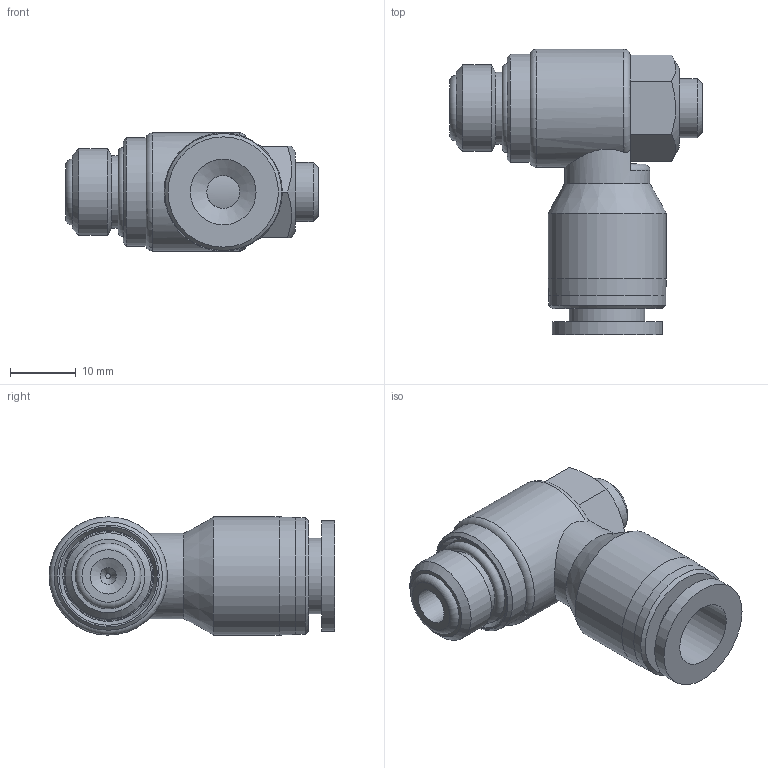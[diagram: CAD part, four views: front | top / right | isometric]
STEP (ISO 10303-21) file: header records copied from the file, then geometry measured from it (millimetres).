
FILE_DESCRIPTION(/* description */ (''),/* implementation_level */ '2;1');
FILE_NAME(/* name */ 'S:\_Tecnico\ArchivioUT\DISEGNI\DISEGNI 3D per ingombri\DP\DP 79\DP79C1410.stp',/* time_stamp */ '2018-12-17T14:51:15+01:00',/* author */ ('UfficioTecnico'),/* organization */ (''),/* preprocessor_version */ 'ST-DEVELOPER v16.1',/* originating_system */ 'Autodesk Inventor 2016',/* authorisation */ '');
FILE_SCHEMA (('AUTOMOTIVE_DESIGN { 1 0 10303 214 3 1 1 }'));
Length unit declared in the file: millimetre
Products named in the file (1): DP79C1410
Bounding box: 38.5 x 43.5 x 18 mm (x, y, z)
Volume: 10601 mm3; surface area: 5109.4 mm2
Topology: 1 solids, 1 shells, 62 faces, 137 edges, 86 vertices
Faces by surface type: plane 27, cylinder 17, cone 13, torus 5
Full cylindrical faces by diameter (mm): 2.5 x1, 5 x1, 5.5 x2, 9 x1, 10 x1, 11 x2, 11.5 x1, 13 x1, 13.157 x1, 16.5 x1, 16.8 x1, 17.8 x1, 18 x2
Entity records: 1618 total; most frequent: CARTESIAN_POINT 379, DIRECTION 253, ORIENTED_EDGE 194, AXIS2_PLACEMENT_3D 115, EDGE_LOOP 103, EDGE_CURVE 97, VERTEX_POINT 78, FACE_OUTER_BOUND 62
